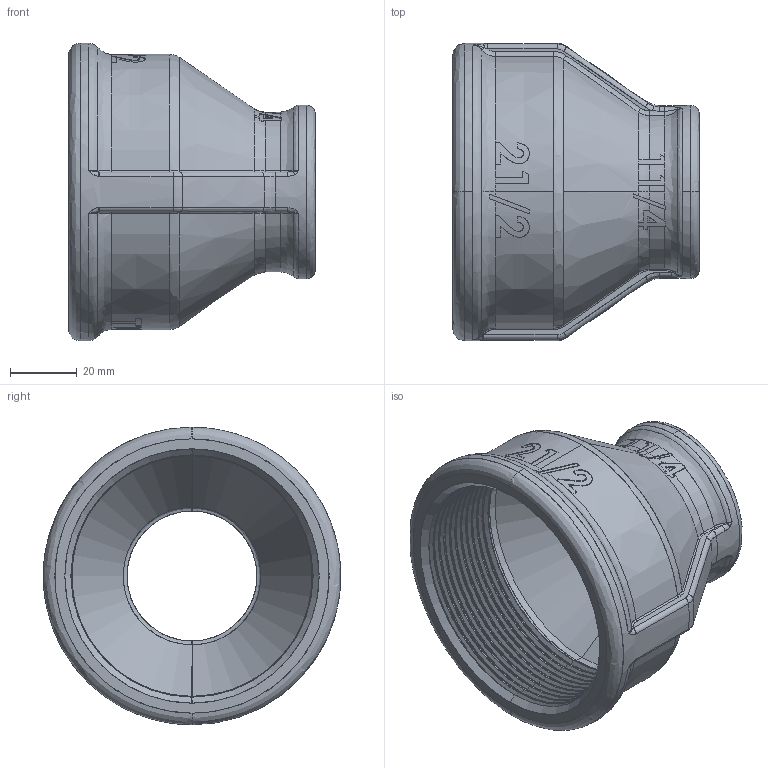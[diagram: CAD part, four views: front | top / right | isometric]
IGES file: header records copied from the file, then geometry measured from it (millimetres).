
Start section: SolidWorks IGES file using analytic representation for surfaces
Global section: file name: C:\Users\Joel Rosa\Desktop\Tubulação\12-32-OK\12-32-049.IGS; native system: SolidWorks 2011; preprocessor: SolidWorks 2011; author: Joel Rosa; date: 121208.230429; units: millimetre
Bounding box: 74 x 89.3 x 89.3 mm (x, y, z)
Surface area: 41117.4 mm2 (no closed solid volume)
Topology: 0 solids, 0 shells, 471 faces, 4008 edges, 4003 vertices
Faces by surface type: bspline 334, revolution 137
